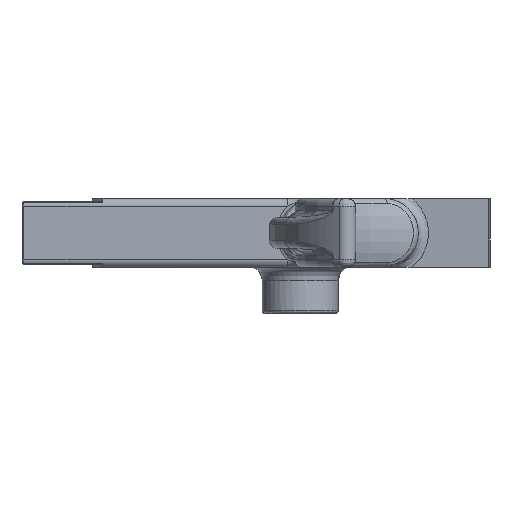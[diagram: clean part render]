
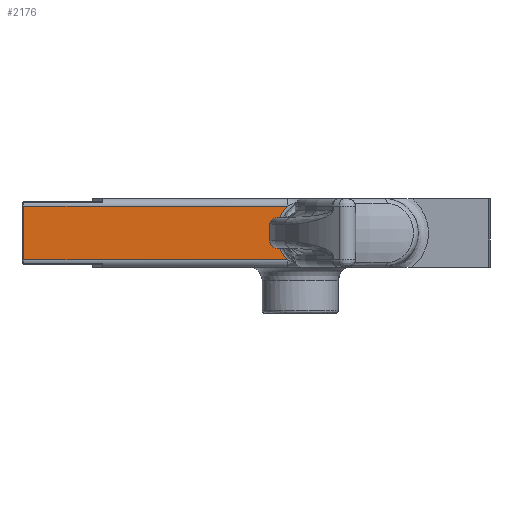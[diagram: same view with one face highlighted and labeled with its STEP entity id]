
A CAD part, front view. The second image highlights one B-rep face of the part: STEP entity #2176.
In plain terms, the highlighted planar face has unit normal (0, -1, 0).
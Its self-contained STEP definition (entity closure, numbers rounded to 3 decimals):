
#175=CIRCLE('',#2358,4.064);
#368=FACE_OUTER_BOUND('',#506,.T.);
#506=EDGE_LOOP('',(#1521,#1522,#1523,#1524));
#646=LINE('',#3424,#768);
#658=LINE('',#3506,#780);
#659=LINE('',#3509,#781);
#768=VECTOR('',#2675,28.619);
#780=VECTOR('',#2721,10.);
#781=VECTOR('',#2724,28.619);
#892=VERTEX_POINT('',#3414);
#895=VERTEX_POINT('',#3422);
#908=VERTEX_POINT('',#3502);
#909=VERTEX_POINT('',#3508);
#1115=EDGE_CURVE('',#892,#895,#646,.T.);
#1137=EDGE_CURVE('',#892,#908,#658,.T.);
#1138=EDGE_CURVE('',#909,#908,#659,.T.);
#1142=EDGE_CURVE('',#909,#895,#175,.T.);
#1521=ORIENTED_EDGE('',*,*,#1137,.F.);
#1522=ORIENTED_EDGE('',*,*,#1115,.T.);
#1523=ORIENTED_EDGE('',*,*,#1142,.F.);
#1524=ORIENTED_EDGE('',*,*,#1138,.T.);
#2126=PLANE('',#2357);
#2176=ADVANCED_FACE('',(#368),#2126,.T.);
#2357=AXIS2_PLACEMENT_3D('',#3515,#2730,#2731);
#2358=AXIS2_PLACEMENT_3D('',#3516,#2732,#2733);
#2675=DIRECTION('',(1.,0.,0.));
#2721=DIRECTION('',(0.,0.,1.));
#2724=DIRECTION('',(-1.,0.,0.));
#2730=DIRECTION('center_axis',(0.,-1.,0.));
#2731=DIRECTION('ref_axis',(0.,0.,-1.));
#2732=DIRECTION('center_axis',(0.,-1.,0.));
#2733=DIRECTION('ref_axis',(-0.702,0.,0.712));
#3414=CARTESIAN_POINT('',(-29.677,-6.858,-2.896));
#3422=CARTESIAN_POINT('',(-1.328,-6.858,-2.896));
#3424=CARTESIAN_POINT('',(-29.947,-6.858,-2.896));
#3502=CARTESIAN_POINT('',(-29.677,-6.858,2.896));
#3506=CARTESIAN_POINT('',(-29.677,-6.858,-0.165));
#3508=CARTESIAN_POINT('',(-1.328,-6.858,2.896));
#3509=CARTESIAN_POINT('',(-1.328,-6.858,2.896));
#3515=CARTESIAN_POINT('Origin',(-30.734,-6.858,-3.683));
#3516=CARTESIAN_POINT('Origin',(1.524,-6.858,0.));
